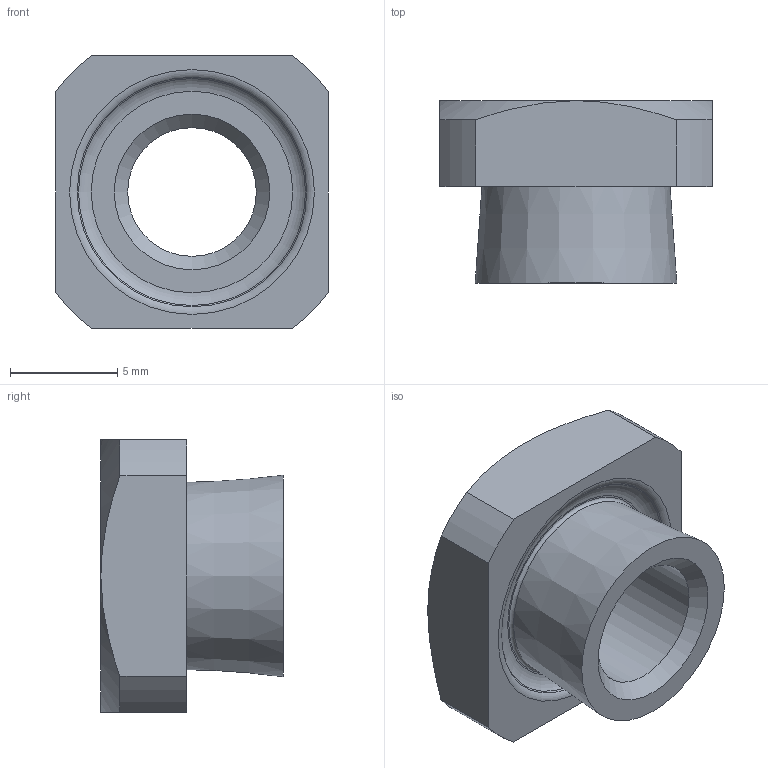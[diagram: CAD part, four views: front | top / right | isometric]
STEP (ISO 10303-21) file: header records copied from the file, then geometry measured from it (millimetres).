
FILE_DESCRIPTION(/* description */ (''),/* implementation_level */ '2;1');
FILE_NAME(/* name */ 'D:\Sukhmani\Fastit\HN Nut\HN 6-4.0.stp',/* time_stamp */ '2024-03-14T12:23:26+06:00',/* author */ ('edc.sukhmani'),/* organization */ (''),/* preprocessor_version */ 'ST-DEVELOPER v18.1',/* originating_system */ 'Autodesk Inventor 2022',/* authorisation */ '');
FILE_SCHEMA (('AUTOMOTIVE_DESIGN { 1 0 10303 214 3 1 1 }'));
Length unit declared in the file: millimetre
Products named in the file (1): HN 6-4.0
Bounding box: 12.72 x 8.5 x 12.72 mm (x, y, z)
Volume: 643.5 mm3; surface area: 733.2 mm2
Topology: 1 solids, 1 shells, 25 faces, 58 edges, 37 vertices
Faces by surface type: cone 8, plane 8, cylinder 6, torus 3
Full cylindrical faces by diameter (mm): 6 x1, 7.25 x1
Entity records: 763 total; most frequent: CARTESIAN_POINT 137, DIRECTION 134, ORIENTED_EDGE 116, EDGE_CURVE 58, AXIS2_PLACEMENT_3D 58, VERTEX_POINT 37, CIRCLE 32, EDGE_LOOP 29
